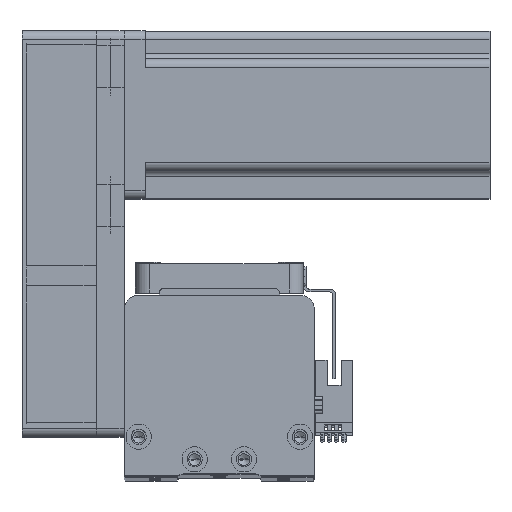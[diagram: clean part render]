
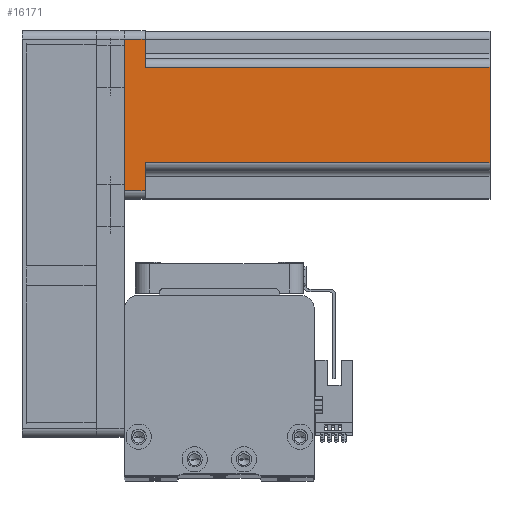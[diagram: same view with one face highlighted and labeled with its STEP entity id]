
A CAD part, top view. The second image highlights one B-rep face of the part: STEP entity #16171.
In plain terms, the highlighted planar face has unit normal (0, 0, 1) as drawn and (0, 1, 0) by its records, which use the part's own axes.
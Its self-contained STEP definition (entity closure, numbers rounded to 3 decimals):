
#417 = VECTOR ( 'NONE', #1957, 1000. ) ;
#1957 = DIRECTION ( 'NONE',  ( 0., 0., -1. ) ) ;
#3778 = LINE ( 'NONE', #12881, #39953 ) ;
#5113 = EDGE_CURVE ( 'NONE', #22359, #25694, #14526, .T. ) ;
#5276 = VECTOR ( 'NONE', #39617, 1000. ) ;
#5396 = PLANE ( 'NONE',  #17373 ) ;
#5998 = DIRECTION ( 'NONE',  ( 0., 0., 1. ) ) ;
#7434 = DIRECTION ( 'NONE',  ( -1., 0., 0. ) ) ;
#8011 = LINE ( 'NONE', #24080, #25634 ) ;
#9057 = CARTESIAN_POINT ( 'NONE',  ( 30., 30., 130.7 ) ) ;
#9277 = LINE ( 'NONE', #38851, #44334 ) ;
#9586 = EDGE_CURVE ( 'NONE', #22359, #26897, #37224, .T. ) ;
#10703 = CARTESIAN_POINT ( 'NONE',  ( -17., 30., 7.5 ) ) ;
#12564 = DIRECTION ( 'NONE',  ( 1., 0., 0. ) ) ;
#12657 = VERTEX_POINT ( 'NONE', #10703 ) ;
#12881 = CARTESIAN_POINT ( 'NONE',  ( -17., 30., 130.7 ) ) ;
#13544 = EDGE_CURVE ( 'NONE', #27128, #25694, #19041, .T. ) ;
#13865 = CARTESIAN_POINT ( 'NONE',  ( 17., 30., 7.5 ) ) ;
#13885 = EDGE_CURVE ( 'NONE', #26897, #44025, #14592, .T. ) ;
#14526 = LINE ( 'NONE', #37716, #22820 ) ;
#14592 = LINE ( 'NONE', #35921, #5276 ) ;
#15301 = EDGE_CURVE ( 'NONE', #27128, #36725, #9277, .T. ) ;
#16171 = ADVANCED_FACE ( 'NONE', ( #20740 ), #5396, .F. ) ;
#17373 = AXIS2_PLACEMENT_3D ( 'NONE', #9057, #33584, #12564 ) ;
#19041 = LINE ( 'NONE', #30004, #417 ) ;
#19340 = ORIENTED_EDGE ( 'NONE', *, *, #44733, .T. ) ;
#20176 = LINE ( 'NONE', #44778, #28372 ) ;
#20740 = FACE_OUTER_BOUND ( 'NONE', #36498, .T. ) ;
#21476 = VERTEX_POINT ( 'NONE', #40539 ) ;
#22359 = VERTEX_POINT ( 'NONE', #34921 ) ;
#22820 = VECTOR ( 'NONE', #41259, 1000. ) ;
#23917 = DIRECTION ( 'NONE',  ( 0., 0., 1. ) ) ;
#24080 = CARTESIAN_POINT ( 'NONE',  ( -20., 30., 7.5 ) ) ;
#24738 = CARTESIAN_POINT ( 'NONE',  ( -27., 30., 0. ) ) ;
#25634 = VECTOR ( 'NONE', #31074, 1000. ) ;
#25694 = VERTEX_POINT ( 'NONE', #13865 ) ;
#25769 = VECTOR ( 'NONE', #40800, 1000. ) ;
#26567 = CARTESIAN_POINT ( 'NONE',  ( -17., 30., 130.7 ) ) ;
#26897 = VERTEX_POINT ( 'NONE', #45074 ) ;
#27128 = VERTEX_POINT ( 'NONE', #33460 ) ;
#28372 = VECTOR ( 'NONE', #23917, 1000. ) ;
#29980 = ORIENTED_EDGE ( 'NONE', *, *, #13544, .T. ) ;
#30004 = CARTESIAN_POINT ( 'NONE',  ( 17., 30., 130.7 ) ) ;
#31074 = DIRECTION ( 'NONE',  ( 1., 0., 0. ) ) ;
#33182 = ORIENTED_EDGE ( 'NONE', *, *, #40203, .T. ) ;
#33460 = CARTESIAN_POINT ( 'NONE',  ( 17., 30., 130.7 ) ) ;
#33584 = DIRECTION ( 'NONE',  ( 0., -1., 0. ) ) ;
#33627 = ORIENTED_EDGE ( 'NONE', *, *, #15301, .F. ) ;
#34921 = CARTESIAN_POINT ( 'NONE',  ( 27., 30., 7.5 ) ) ;
#35921 = CARTESIAN_POINT ( 'NONE',  ( 30., 30., 0. ) ) ;
#36498 = EDGE_LOOP ( 'NONE', ( #19340, #33182, #33627, #29980, #40488, #40302, #37249, #36512 ) ) ;
#36512 = ORIENTED_EDGE ( 'NONE', *, *, #43400, .T. ) ;
#36725 = VERTEX_POINT ( 'NONE', #26567 ) ;
#37224 = LINE ( 'NONE', #37257, #25769 ) ;
#37249 = ORIENTED_EDGE ( 'NONE', *, *, #13885, .T. ) ;
#37257 = CARTESIAN_POINT ( 'NONE',  ( 27., 30., 130.7 ) ) ;
#37716 = CARTESIAN_POINT ( 'NONE',  ( 20., 30., 7.5 ) ) ;
#38851 = CARTESIAN_POINT ( 'NONE',  ( 30., 30., 130.7 ) ) ;
#39617 = DIRECTION ( 'NONE',  ( -1., 0., 0. ) ) ;
#39953 = VECTOR ( 'NONE', #5998, 1000. ) ;
#40203 = EDGE_CURVE ( 'NONE', #12657, #36725, #3778, .T. ) ;
#40302 = ORIENTED_EDGE ( 'NONE', *, *, #9586, .T. ) ;
#40488 = ORIENTED_EDGE ( 'NONE', *, *, #5113, .F. ) ;
#40539 = CARTESIAN_POINT ( 'NONE',  ( -27., 30., 7.5 ) ) ;
#40800 = DIRECTION ( 'NONE',  ( 0., 0., -1. ) ) ;
#41259 = DIRECTION ( 'NONE',  ( -1., 0., 0. ) ) ;
#43400 = EDGE_CURVE ( 'NONE', #44025, #21476, #20176, .T. ) ;
#44025 = VERTEX_POINT ( 'NONE', #24738 ) ;
#44334 = VECTOR ( 'NONE', #7434, 1000. ) ;
#44733 = EDGE_CURVE ( 'NONE', #21476, #12657, #8011, .T. ) ;
#44778 = CARTESIAN_POINT ( 'NONE',  ( -27., 30., 130.7 ) ) ;
#45074 = CARTESIAN_POINT ( 'NONE',  ( 27., 30., 0. ) ) ;
